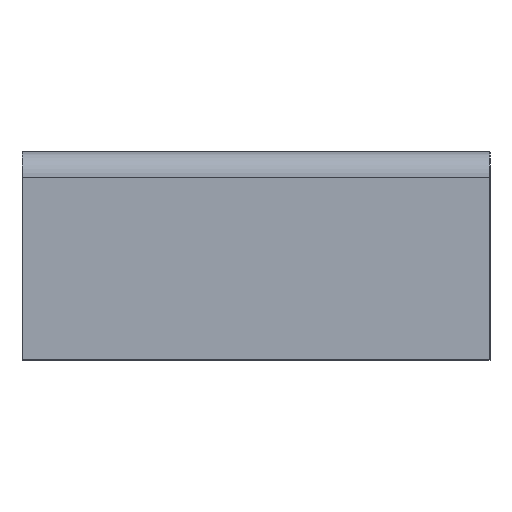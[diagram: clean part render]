
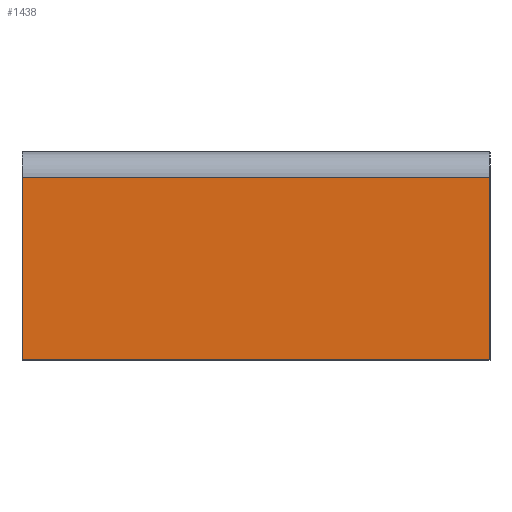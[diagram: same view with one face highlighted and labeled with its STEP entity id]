
A CAD part, left-side view. The second image highlights one B-rep face of the part: STEP entity #1438.
In plain terms, the highlighted planar face has unit normal (-1, 0, 0).
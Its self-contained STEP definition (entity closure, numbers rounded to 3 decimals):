
#168=FACE_OUTER_BOUND('',#254,.T.);
#254=EDGE_LOOP('',(#1246,#1247,#1248,#1249));
#415=LINE('',#2370,#571);
#417=LINE('',#2374,#573);
#418=LINE('',#2376,#574);
#419=LINE('',#2377,#575);
#571=VECTOR('',#1932,304.8);
#573=VECTOR('',#1936,304.8);
#574=VECTOR('',#1937,304.8);
#575=VECTOR('',#1938,304.8);
#714=VERTEX_POINT('',#2367);
#715=VERTEX_POINT('',#2369);
#716=VERTEX_POINT('',#2373);
#717=VERTEX_POINT('',#2375);
#905=EDGE_CURVE('',#715,#714,#415,.T.);
#907=EDGE_CURVE('',#716,#714,#417,.T.);
#908=EDGE_CURVE('',#717,#716,#418,.T.);
#909=EDGE_CURVE('',#715,#717,#419,.T.);
#1246=ORIENTED_EDGE('',*,*,#907,.F.);
#1247=ORIENTED_EDGE('',*,*,#908,.F.);
#1248=ORIENTED_EDGE('',*,*,#909,.F.);
#1249=ORIENTED_EDGE('',*,*,#905,.T.);
#1369=PLANE('',#1560);
#1438=ADVANCED_FACE('',(#168),#1369,.T.);
#1560=AXIS2_PLACEMENT_3D('',#2372,#1934,#1935);
#1932=DIRECTION('',(0.,-1.,0.));
#1934=DIRECTION('center_axis',(-1.,0.,0.));
#1935=DIRECTION('ref_axis',(0.,1.,0.));
#1936=DIRECTION('',(0.,0.,-1.));
#1937=DIRECTION('',(0.,-1.,0.));
#1938=DIRECTION('',(0.,0.,1.));
#2367=CARTESIAN_POINT('',(-187.5,-45.,0.));
#2369=CARTESIAN_POINT('',(-187.5,45.,0.));
#2370=CARTESIAN_POINT('',(-187.5,45.,0.));
#2372=CARTESIAN_POINT('Origin',(-187.5,-45.,35.));
#2373=CARTESIAN_POINT('',(-187.5,-45.,35.));
#2374=CARTESIAN_POINT('',(-187.5,-45.,35.));
#2375=CARTESIAN_POINT('',(-187.5,45.,35.));
#2376=CARTESIAN_POINT('',(-187.5,45.,35.));
#2377=CARTESIAN_POINT('',(-187.5,45.,0.));
